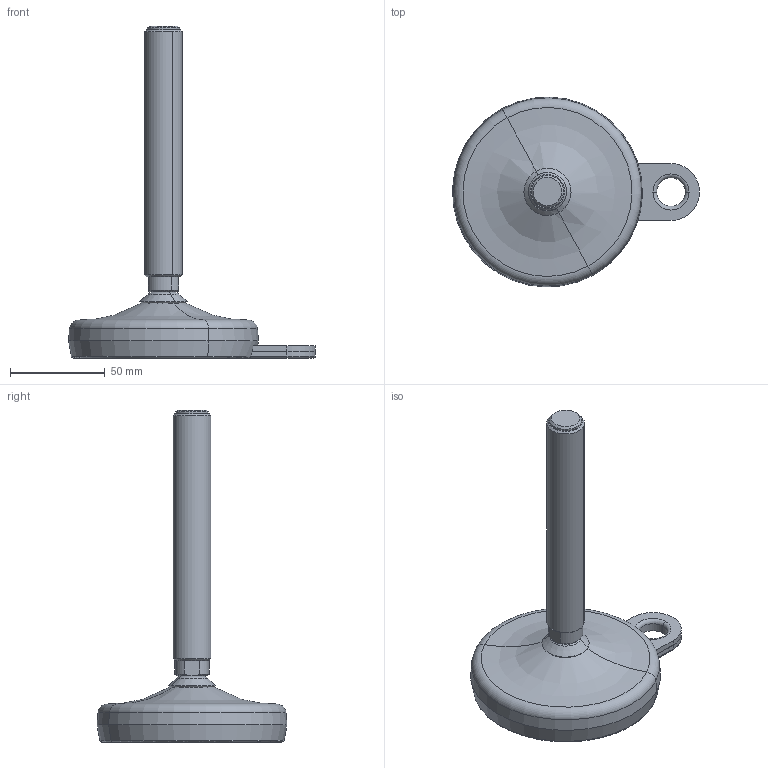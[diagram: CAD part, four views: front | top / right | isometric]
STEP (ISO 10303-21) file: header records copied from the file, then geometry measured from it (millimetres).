
FILE_DESCRIPTION(('CATIA V5 STEP Exchange'),'2;1');
FILE_NAME('X:\CODICI MOVEX\3D per clienti\Dario Fornaroli\07-01-2015\P93802_01.stp','2015-01-07T14:21:39+00:00',('none'),('none'),'Version 5-6 Release 2012','CATIA V5 STEP AP203','none');
FILE_SCHEMA(('CONFIG_CONTROL_DESIGN'));
Length unit declared in the file: millimetre
Products named in the file (1): P93802_01
Assembly tree (3 placements, depth 2):
  P93802_01
    #57
    #1170
    #1511
Bounding box: 129.99 x 99.97 x 174.74 mm (x, y, z)
Volume: 215339 mm3; surface area: 63619.8 mm2
Topology: 5 solids, 5 shells, 133 faces, 283 edges, 172 vertices
Faces by surface type: cone 37, cylinder 35, plane 34, torus 21, revolution 6
Entity records: 3389 total; most frequent: CARTESIAN_POINT 623, ORIENTED_EDGE 566, DIRECTION 457, EDGE_CURVE 283, AXIS2_PLACEMENT_3D 272, CIRCLE 180, VERTEX_POINT 172, EDGE_LOOP 157
